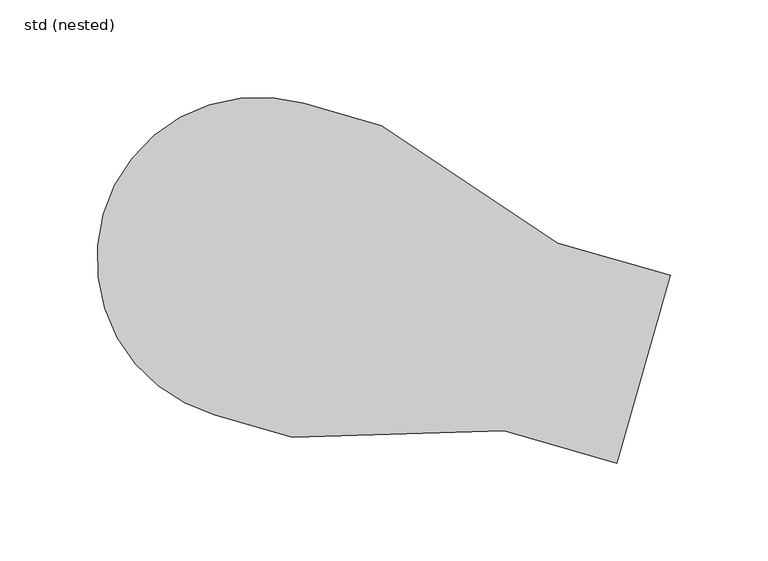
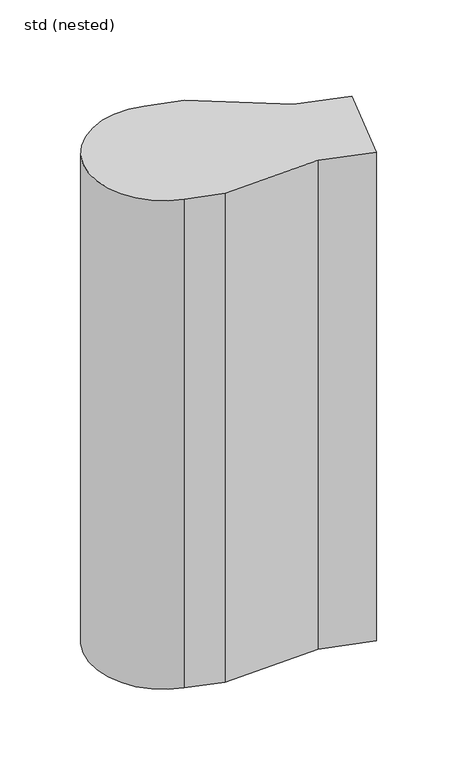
"""IFC4 building model written with IfcOpenShell, lengths in millimetres: unitary equipment geometry, ZZZ_do not use_ME_WPB_pump muliflex_ACO -SH : std (nested)."""

from ifc_helpers import new_model, si_unit, point, frame, frame_2d, origin, place, context, project, spatial, polyline, circle_curve, trimmed, segment, composite_curve, outline, extrude, source, transform, mapped, element, save


def std_nested_d96b53c7(model_context):
    return source(origin(), model_context, "Body", "SweptSolid", [
        extrude(outline(composite_curve([segment(polyline([(7.2409371, 215.5985995), (47.1332975, 204.1596492), (137.5278502, 143.9095469), (195.203552, 127.3713056), (167.6398164, 31.245136), (109.9641147, 47.7833773), (1.3774964, 44.5902077), (-38.514864, 56.0291579)]), True, "CONTINUOUS"), segment(trimmed(circle_curve(frame_2d((-15.6369635, 135.8138787)), 83.0), [point((-38.514864, 56.0291579))], [point((7.2409371, 215.5985995))], False, "CARTESIAN"), True, "CONTINUOUS")], self_intersect=False)), frame((0.0, 0.0, 33.0), z_axis=(0.0, 0.0, 1.0), x_axis=(1.0, 0.0, 0.0)), (0.0, 0.0, 1.0), 592.0),
    ])


if __name__ == "__main__":
    model = new_model("IFC4")
    model_context = context("Model", 3, world=origin())
    ifc_project = project(units=[si_unit("LENGTHUNIT", "METRE", prefix="MILLI")], contexts=[model_context])
    site = spatial("IfcSite", under=ifc_project)
    building = spatial("IfcBuilding", under=site)
    placement = place(None, origin())
    std_nested_shape = std_nested_d96b53c7(model_context)
    element("IfcUnitaryEquipment", 1, ObjectType="ZZZ_do not use_ME_WPB_pump muliflex_ACO -SH : std (nested)", at=placement, inside=building, context=model_context, shape_type="MappedRepresentation", body=[
        mapped(std_nested_shape, transform((0.0, 0.0, 0.0), x_axis=(1.0, 0.0, 0.0), y_axis=(0.0, 1.0, 0.0), z_axis=(0.0, 0.0, 1.0))),
    ])
    save(model, "model.ifc")
